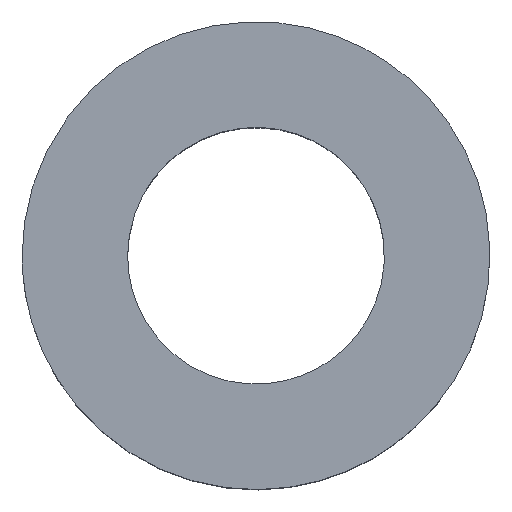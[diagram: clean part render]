
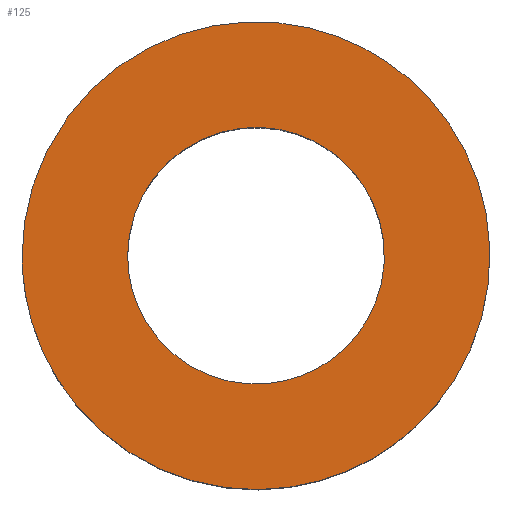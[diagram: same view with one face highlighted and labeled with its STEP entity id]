
A CAD part, top view. The second image highlights one B-rep face of the part: STEP entity #125.
In plain terms, the highlighted free-form (B-spline) face has degree [1, 1] with [2, 2] control points.
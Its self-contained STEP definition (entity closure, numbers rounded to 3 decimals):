
#92 = EDGE_CURVE('',#93,#93,#95,.T.);
#93 = VERTEX_POINT('',#94);
#94 = CARTESIAN_POINT('',(-4.1,0.,4.));
#95 = ( BOUNDED_CURVE() B_SPLINE_CURVE(2,(#96,#97,#98,#99,#100,#101,#102
),.UNSPECIFIED.,.T.,.F.) B_SPLINE_CURVE_WITH_KNOTS((1,2,2,2,2,1),(
    -2.094,0.,2.094,4.189,6.283,
8.378),.UNSPECIFIED.) CURVE() GEOMETRIC_REPRESENTATION_ITEM() 
RATIONAL_B_SPLINE_CURVE((1.,0.5,1.,0.5,1.,0.5,1.)) REPRESENTATION_ITEM(
  '') );
#96 = CARTESIAN_POINT('',(-4.1,0.,4.));
#97 = CARTESIAN_POINT('',(-4.1,7.101,4.));
#98 = CARTESIAN_POINT('',(2.05,3.551,4.));
#99 = CARTESIAN_POINT('',(8.2,0.,4.));
#100 = CARTESIAN_POINT('',(2.05,-3.551,4.));
#101 = CARTESIAN_POINT('',(-4.1,-7.101,4.));
#102 = CARTESIAN_POINT('',(-4.1,0.,4.));
#125 = ADVANCED_FACE('',(#126,#140),#143,.T.);
#126 = FACE_BOUND('',#127,.T.);
#127 = EDGE_LOOP('',(#128));
#128 = ORIENTED_EDGE('',*,*,#129,.T.);
#129 = EDGE_CURVE('',#130,#130,#132,.T.);
#130 = VERTEX_POINT('',#131);
#131 = CARTESIAN_POINT('',(-2.25,0.,4.));
#132 = ( BOUNDED_CURVE() B_SPLINE_CURVE(2,(#133,#134,#135,#136,#137,#138
,#139),.UNSPECIFIED.,.T.,.F.) B_SPLINE_CURVE_WITH_KNOTS((1,2,2,2,2,1),(
    -2.094,0.,2.094,4.189,6.283,
8.378),.UNSPECIFIED.) CURVE() GEOMETRIC_REPRESENTATION_ITEM() 
RATIONAL_B_SPLINE_CURVE((1.,0.5,1.,0.5,1.,0.5,1.)) REPRESENTATION_ITEM(
  '') );
#133 = CARTESIAN_POINT('',(-2.25,0.,4.));
#134 = CARTESIAN_POINT('',(-2.25,3.897,4.));
#135 = CARTESIAN_POINT('',(1.125,1.949,4.));
#136 = CARTESIAN_POINT('',(4.5,0.,4.));
#137 = CARTESIAN_POINT('',(1.125,-1.949,4.));
#138 = CARTESIAN_POINT('',(-2.25,-3.897,4.));
#139 = CARTESIAN_POINT('',(-2.25,0.,4.));
#140 = FACE_BOUND('',#141,.T.);
#141 = EDGE_LOOP('',(#142));
#142 = ORIENTED_EDGE('',*,*,#92,.F.);
#143 = B_SPLINE_SURFACE_WITH_KNOTS('',1,1,(
    (#144,#145)
    ,(#146,#147
    )),.UNSPECIFIED.,.F.,.F.,.F.,(2,2),(2,2),(0.,8.2),(-4.1,4.1),
  .PIECEWISE_BEZIER_KNOTS.);
#144 = CARTESIAN_POINT('',(-4.1,-4.1,4.));
#145 = CARTESIAN_POINT('',(-4.1,4.1,4.));
#146 = CARTESIAN_POINT('',(4.1,-4.1,4.));
#147 = CARTESIAN_POINT('',(4.1,4.1,4.));
